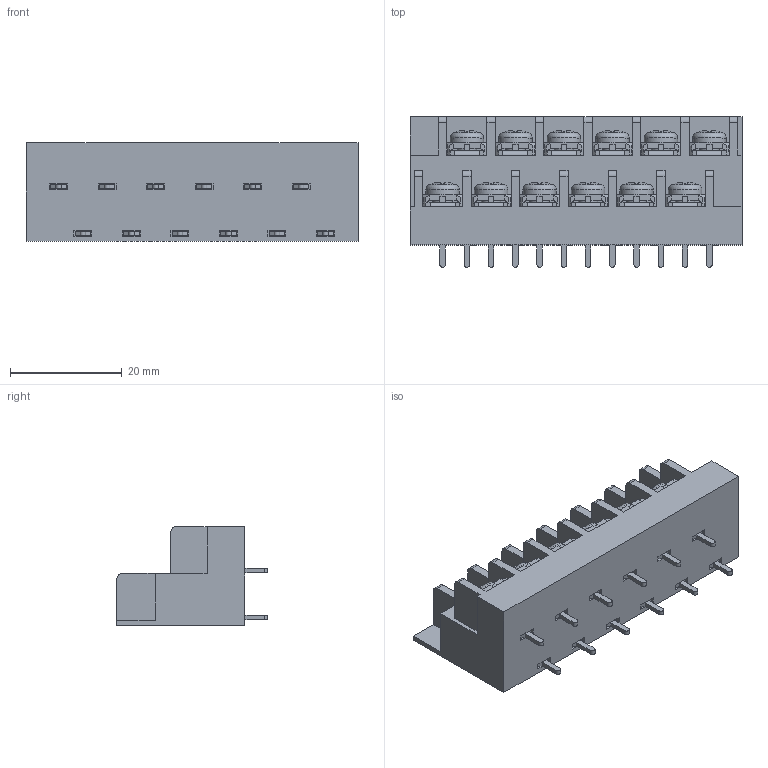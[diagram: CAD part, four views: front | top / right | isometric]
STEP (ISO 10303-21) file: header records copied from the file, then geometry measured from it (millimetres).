
FILE_DESCRIPTION(/* description */ ('Alibre Inc.'),/* implementation_level */ '2;1');
FILE_NAME(/* name */ 'export-20670B76-ABC9-4FE7-94D0-2C4DF4AE97DD',/* time_stamp */ '2021-02-09T10:57:43+09:00',/* author */ (''),/* organization */ (''),/* preprocessor_version */ 'ST-DEVELOPER v17',/* originating_system */ 'Alibre',/* authorisation */ '');
FILE_SCHEMA (('CONFIG_CONTROL_DESIGN'));
Length unit declared in the file: millimetre
Bounding box: 59.55 x 27 x 17.7 mm (x, y, z)
Volume: 15306.8 mm3; surface area: 10369.6 mm2
Topology: 1 solids, 29 shells, 2076 faces, 5190 edges, 3264 vertices
Faces by surface type: plane 1488, bspline 322, cylinder 110, extrusion 48, cone 48, torus 36, sphere 24
Full cylindrical faces by diameter (mm): 3.5 x24, 4.5 x12, 5 x12, 6 x12
Entity records: 64675 total; most frequent: CARTESIAN_POINT 20805, ORIENTED_EDGE 10092, DIRECTION 6411, EDGE_CURVE 5046, VECTOR 3567, LINE 3543, VERTEX_POINT 3216, EDGE_LOOP 2296
